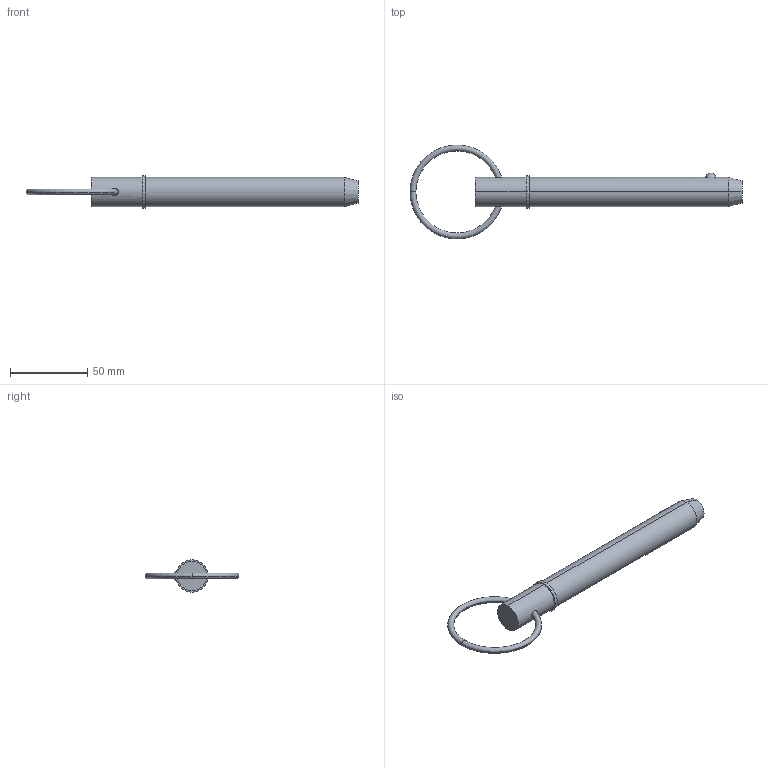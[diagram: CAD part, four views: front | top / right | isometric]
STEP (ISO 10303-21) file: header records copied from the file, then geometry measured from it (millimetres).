
FILE_DESCRIPTION (( 'STEP AP203' ), '1' );
FILE_NAME ('33016.W7545.step', '2024-11-07T11:15:00', ( '' ), ( '' ), 'SwSTEP 2.0', 'SolidWorks 2019', '' );
FILE_SCHEMA (( 'CONFIG_CONTROL_DESIGN' ));
Length unit declared in the file: millimetre
Products named in the file (3): 33016.W7545; Part2_33016.W7545; Part1_33016.W7545
Assembly tree (2 placements, depth 2):
  33016.W7545
    Part1_33016.W7545
    Part2_33016.W7545
Bounding box: 215.5 x 60.96 x 20.95 mm (x, y, z)
Volume: 50624.1 mm3; surface area: 13307.1 mm2
Topology: 2 solids, 2 shells, 22 faces, 43 edges, 26 vertices
Faces by surface type: torus 8, cylinder 6, plane 4, sphere 2, cone 2
Entity records: 1053 total; most frequent: CARTESIAN_POINT 276, DIRECTION 120, ORIENTED_EDGE 86, AXIS2_PLACEMENT_3D 56, EDGE_CURVE 43, CIRCLE 29, EDGE_LOOP 27, VERTEX_POINT 26
